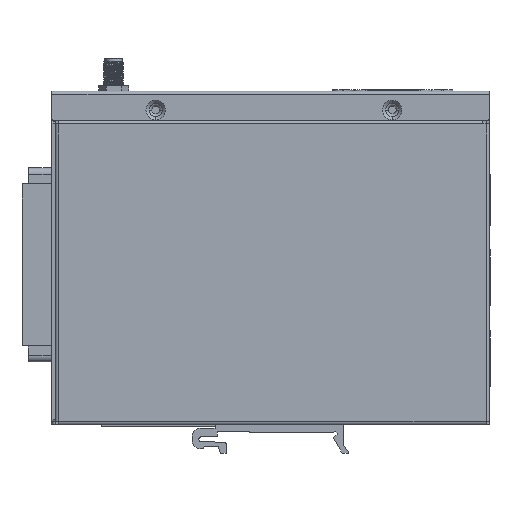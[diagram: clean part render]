
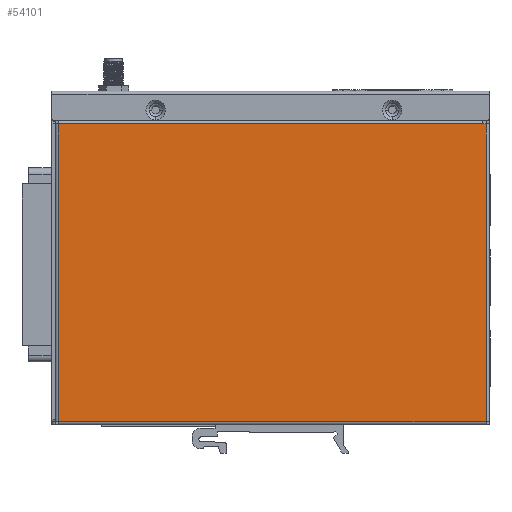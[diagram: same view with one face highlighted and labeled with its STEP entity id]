
A CAD part, front view. The second image highlights one B-rep face of the part: STEP entity #54101.
In plain terms, the highlighted planar face has unit normal (0, -1, 0).
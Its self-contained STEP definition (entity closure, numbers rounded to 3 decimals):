
#48318=DIRECTION('',(1.,0.,0.));
#48319=VECTOR('',#48318,1.);
#48320=CARTESIAN_POINT('',(62.8,-2.8,43.5));
#48321=LINE('',#48320,#48319);
#49170=DIRECTION('',(0.,0.,-1.));
#49171=VECTOR('',#49170,91.9);
#49172=CARTESIAN_POINT('',(63.8,-2.8,43.5));
#49173=LINE('',#49172,#49171);
#49182=DIRECTION('',(0.,0.,1.));
#49183=VECTOR('',#49182,91.9);
#49184=CARTESIAN_POINT('',(-68.2,-2.8,-48.4));
#49185=LINE('',#49184,#49183);
#49190=DIRECTION('',(1.,0.,0.));
#49191=VECTOR('',#49190,131.);
#49192=CARTESIAN_POINT('',(-68.2,-2.8,43.5));
#49193=LINE('',#49192,#49191);
#49198=DIRECTION('',(-1.,0.,0.));
#49199=VECTOR('',#49198,132.);
#49200=CARTESIAN_POINT('',(63.8,-2.8,-48.4));
#49201=LINE('',#49200,#49199);
#51114=CARTESIAN_POINT('',(62.8,-2.8,43.5));
#51116=VERTEX_POINT('',#51114);
#51147=CARTESIAN_POINT('',(63.8,-2.8,43.5));
#51148=VERTEX_POINT('',#51147);
#51149=CARTESIAN_POINT('',(63.8,-2.8,-48.4));
#51150=VERTEX_POINT('',#51149);
#51243=CARTESIAN_POINT('',(-68.2,-2.8,43.5));
#51244=VERTEX_POINT('',#51243);
#51289=CARTESIAN_POINT('',(-68.2,-2.8,-48.4));
#51290=VERTEX_POINT('',#51289);
#54086=CARTESIAN_POINT('',(-1.7,-2.8,2.05));
#54087=DIRECTION('',(0.,1.,0.));
#54088=DIRECTION('',(1.,0.,0.));
#54089=AXIS2_PLACEMENT_3D('',#54086,#54087,#54088);
#54090=PLANE('',#54089);
#54092=ORIENTED_EDGE('',*,*,#54091,.T.);
#54094=ORIENTED_EDGE('',*,*,#54093,.T.);
#54095=ORIENTED_EDGE('',*,*,#53017,.T.);
#54096=ORIENTED_EDGE('',*,*,#54079,.T.);
#54098=ORIENTED_EDGE('',*,*,#54097,.T.);
#54099=EDGE_LOOP('',(#54092,#54094,#54095,#54096,#54098));
#54100=FACE_OUTER_BOUND('',#54099,.F.);
#54101=ADVANCED_FACE('',(#54100),#54090,.F.);
#53017=EDGE_CURVE('',#51116,#51148,#48321,.T.);
#54079=EDGE_CURVE('',#51148,#51150,#49173,.T.);
#54091=EDGE_CURVE('',#51290,#51244,#49185,.T.);
#54093=EDGE_CURVE('',#51244,#51116,#49193,.T.);
#54097=EDGE_CURVE('',#51150,#51290,#49201,.T.);
